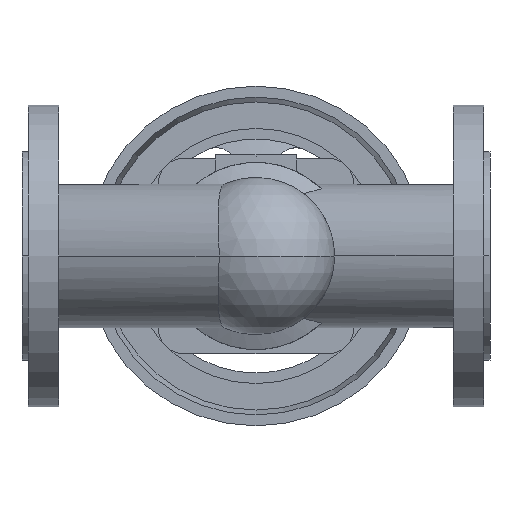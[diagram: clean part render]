
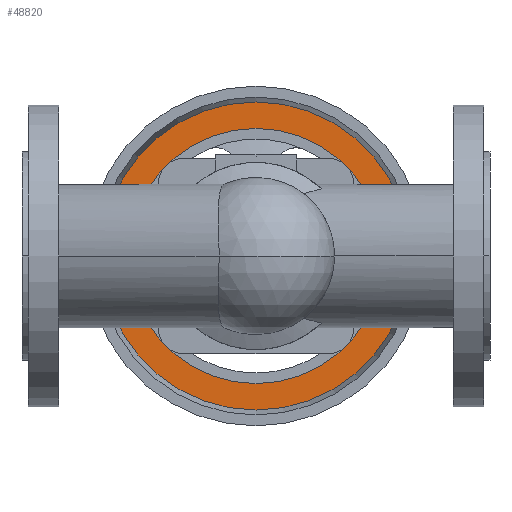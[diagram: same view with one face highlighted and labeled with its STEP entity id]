
A CAD part, front view. The second image highlights one B-rep face of the part: STEP entity #48820.
In plain terms, the highlighted planar face has unit normal (0, -1, 0).
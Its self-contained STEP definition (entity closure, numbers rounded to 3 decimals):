
#48270=CARTESIAN_POINT('',(257.038,378.5,0.))
;
#48280=VERTEX_POINT('',#48270);
#48360=CARTESIAN_POINT('',(52.962,378.5,0.));
#48370=VERTEX_POINT('',#48360);
#48400=CARTESIAN_POINT('',(155.,378.5,0.));
#48410=DIRECTION('',(0.,1.,0.));
#48420=DIRECTION('',(-1.,0.,0.));
#48430=AXIS2_PLACEMENT_3D('',#48400,#48410,#48420);
#48440=CIRCLE('',#48430,102.038);
#48450=EDGE_CURVE('',#48280,#48370,#48440,.T.);
#48570=CARTESIAN_POINT('',(61.731,378.5,0.))
;
#48580=DIRECTION('',(0.,-1.,0.));
#48590=DIRECTION('',(1.,0.,0.));
#48600=AXIS2_PLACEMENT_3D('',#48570,#48580,#48590);
#48610=PLANE('',#48600);
#48620=EDGE_CURVE('',#48370,#48280,#48440,.T.);
#48630=ORIENTED_EDGE('',*,*,#48620,.F.);
#48640=ORIENTED_EDGE('',*,*,#48450,.F.);
#48650=EDGE_LOOP('',(#48640,#48630));
#48660=FACE_OUTER_BOUND('',#48650,.T.);
#48670=CARTESIAN_POINT('',(155.,378.5,0.));
#48680=DIRECTION('',(0.,1.,0.));
#48690=DIRECTION('',(-1.,0.,0.));
#48700=AXIS2_PLACEMENT_3D('',#48670,#48680,#48690);
#48710=CIRCLE('',#48700,84.5);
#48720=CARTESIAN_POINT('',(239.5,378.5,0.));
#48730=VERTEX_POINT('',#48720);
#48740=CARTESIAN_POINT('',(70.5,378.5,0.));
#48750=VERTEX_POINT('',#48740);
#48760=EDGE_CURVE('',#48730,#48750,#48710,.T.);
#48770=ORIENTED_EDGE('',*,*,#48760,.T.);
#48780=EDGE_CURVE('',#48750,#48730,#48710,.T.);
#48790=ORIENTED_EDGE('',*,*,#48780,.T.);
#48800=EDGE_LOOP('',(#48790,#48770));
#48810=FACE_BOUND('',#48800,.T.);
#48820=ADVANCED_FACE('',(#48660,#48810),#48610,.T.);
